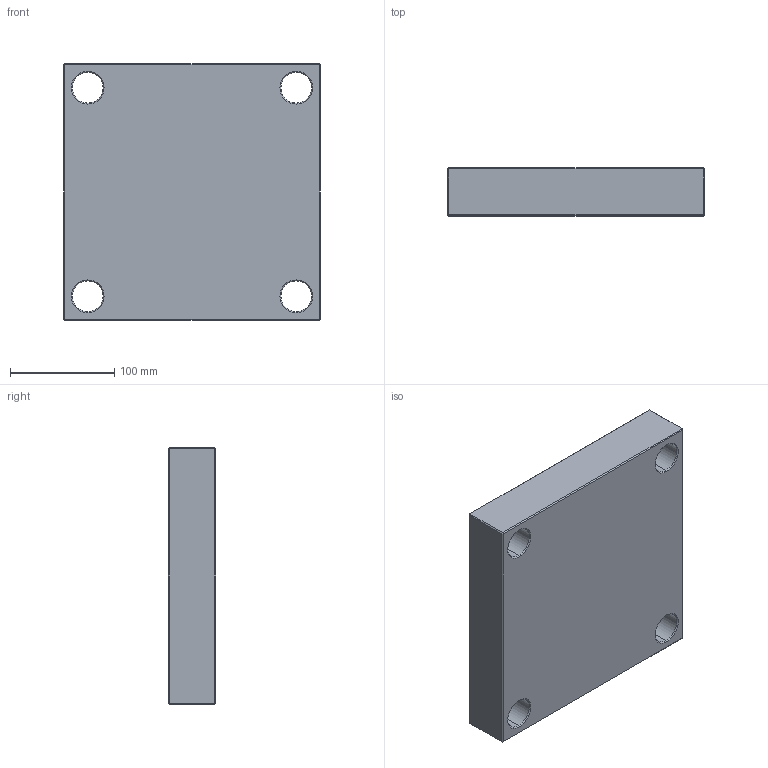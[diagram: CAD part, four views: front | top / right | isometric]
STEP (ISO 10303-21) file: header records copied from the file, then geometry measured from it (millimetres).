
FILE_DESCRIPTION (( 'STEP AP214' ), '1' );
FILE_NAME ('PCX-246x246x46.STEP', '2020-04-30T17:06:56', ( 'August' ), ( '' ), 'SwSTEP 2.0', 'SolidWorks 2018', '' );
FILE_SCHEMA (( 'AUTOMOTIVE_DESIGN' ));
Length unit declared in the file: millimetre
Products named in the file (1): PCX-246x246x46
Bounding box: 246 x 46 x 246 mm (x, y, z)
Volume: 2637854.6 mm3; surface area: 180183.7 mm2
Topology: 1 solids, 1 shells, 82 faces, 168 edges, 96 vertices
Faces by surface type: plane 34, cone 24, cylinder 24
Entity records: 2170 total; most frequent: DIRECTION 406, CARTESIAN_POINT 347, ORIENTED_EDGE 336, EDGE_CURVE 168, AXIS2_PLACEMENT_3D 155, EDGE_LOOP 98, LINE 96, VECTOR 96
